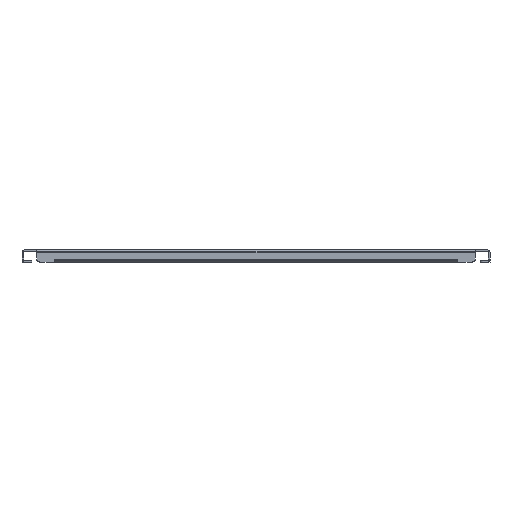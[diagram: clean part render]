
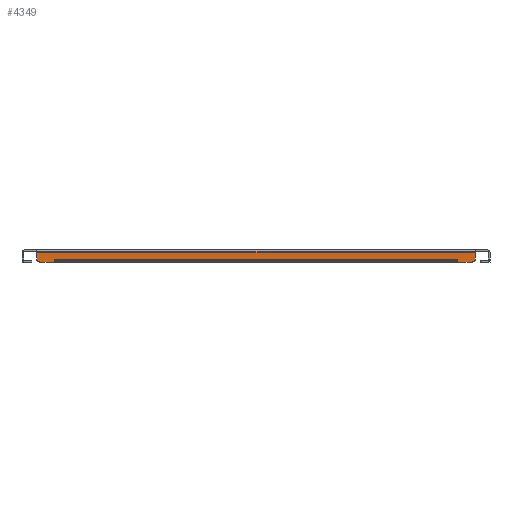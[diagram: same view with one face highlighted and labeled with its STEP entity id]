
A CAD part, front view. The second image highlights one B-rep face of the part: STEP entity #4349.
In plain terms, the highlighted planar face has unit normal (0, -1, 0).
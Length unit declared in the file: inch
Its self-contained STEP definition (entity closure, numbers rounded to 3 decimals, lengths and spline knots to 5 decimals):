
#141=PLANE('',#4746);
#317=FACE_OUTER_BOUND('',#593,.T.);
#593=EDGE_LOOP('',(#3601,#3602,#3603,#3604,#3605,#3606,#3607,#3608,#3609,
#3610,#3611,#3612,#3613,#3614));
#932=LINE('',#6900,#1378);
#952=LINE('',#6968,#1398);
#970=LINE('',#7029,#1416);
#973=LINE('',#7034,#1419);
#974=LINE('',#7038,#1420);
#975=LINE('',#7040,#1421);
#976=LINE('',#7042,#1422);
#977=LINE('',#7044,#1423);
#978=LINE('',#7046,#1424);
#979=LINE('',#7048,#1425);
#980=LINE('',#7050,#1426);
#981=LINE('',#7051,#1427);
#1378=VECTOR('',#5605,0.3937);
#1398=VECTOR('',#5659,0.3937);
#1416=VECTOR('',#5709,0.3937);
#1419=VECTOR('',#5714,0.3937);
#1420=VECTOR('',#5717,0.3937);
#1421=VECTOR('',#5718,0.3937);
#1422=VECTOR('',#5719,0.3937);
#1423=VECTOR('',#5720,0.3937);
#1424=VECTOR('',#5721,0.3937);
#1425=VECTOR('',#5722,0.3937);
#1426=VECTOR('',#5723,0.3937);
#1427=VECTOR('',#5724,0.3937);
#1725=CIRCLE('',#4744,0.125);
#1726=CIRCLE('',#4747,0.125);
#2028=VERTEX_POINT('',#6897);
#2029=VERTEX_POINT('',#6899);
#2059=VERTEX_POINT('',#6965);
#2060=VERTEX_POINT('',#6967);
#2086=VERTEX_POINT('',#7024);
#2087=VERTEX_POINT('',#7028);
#2089=VERTEX_POINT('',#7035);
#2090=VERTEX_POINT('',#7037);
#2091=VERTEX_POINT('',#7039);
#2092=VERTEX_POINT('',#7041);
#2093=VERTEX_POINT('',#7043);
#2094=VERTEX_POINT('',#7045);
#2095=VERTEX_POINT('',#7047);
#2096=VERTEX_POINT('',#7049);
#2566=EDGE_CURVE('',#2029,#2028,#932,.T.);
#2600=EDGE_CURVE('',#2060,#2059,#952,.T.);
#2629=EDGE_CURVE('',#2060,#2086,#1725,.T.);
#2631=EDGE_CURVE('',#2087,#2086,#970,.T.);
#2634=EDGE_CURVE('',#2029,#2059,#973,.T.);
#2635=EDGE_CURVE('',#2089,#2028,#1726,.T.);
#2636=EDGE_CURVE('',#2089,#2090,#974,.T.);
#2637=EDGE_CURVE('',#2090,#2091,#975,.T.);
#2638=EDGE_CURVE('',#2091,#2092,#976,.T.);
#2639=EDGE_CURVE('',#2092,#2093,#977,.T.);
#2640=EDGE_CURVE('',#2093,#2094,#978,.T.);
#2641=EDGE_CURVE('',#2094,#2095,#979,.T.);
#2642=EDGE_CURVE('',#2095,#2096,#980,.T.);
#2643=EDGE_CURVE('',#2096,#2087,#981,.T.);
#3601=ORIENTED_EDGE('',*,*,#2629,.F.);
#3602=ORIENTED_EDGE('',*,*,#2600,.T.);
#3603=ORIENTED_EDGE('',*,*,#2634,.F.);
#3604=ORIENTED_EDGE('',*,*,#2566,.T.);
#3605=ORIENTED_EDGE('',*,*,#2635,.F.);
#3606=ORIENTED_EDGE('',*,*,#2636,.T.);
#3607=ORIENTED_EDGE('',*,*,#2637,.T.);
#3608=ORIENTED_EDGE('',*,*,#2638,.T.);
#3609=ORIENTED_EDGE('',*,*,#2639,.T.);
#3610=ORIENTED_EDGE('',*,*,#2640,.T.);
#3611=ORIENTED_EDGE('',*,*,#2641,.T.);
#3612=ORIENTED_EDGE('',*,*,#2642,.T.);
#3613=ORIENTED_EDGE('',*,*,#2643,.T.);
#3614=ORIENTED_EDGE('',*,*,#2631,.T.);
#4349=ADVANCED_FACE('',(#317),#141,.F.);
#4744=AXIS2_PLACEMENT_3D('',#7025,#5704,#5705);
#4746=AXIS2_PLACEMENT_3D('',#7033,#5712,#5713);
#4747=AXIS2_PLACEMENT_3D('',#7036,#5715,#5716);
#5605=DIRECTION('',(0.,0.,-1.));
#5659=DIRECTION('',(0.,0.,1.));
#5704=DIRECTION('center_axis',(0.,1.,0.));
#5705=DIRECTION('ref_axis',(0.707,0.,-0.707));
#5709=DIRECTION('',(1.,0.,0.));
#5712=DIRECTION('center_axis',(0.,1.,0.));
#5713=DIRECTION('ref_axis',(0.,0.,1.));
#5714=DIRECTION('',(1.,0.,0.));
#5715=DIRECTION('center_axis',(0.,1.,0.));
#5716=DIRECTION('ref_axis',(-0.707,0.,-0.707));
#5717=DIRECTION('',(1.,0.,0.));
#5718=DIRECTION('',(0.,0.,1.));
#5719=DIRECTION('',(1.,0.,0.));
#5720=DIRECTION('',(0.,0.,-1.));
#5721=DIRECTION('',(1.,0.,0.));
#5722=DIRECTION('',(0.,0.,1.));
#5723=DIRECTION('',(1.,0.,0.));
#5724=DIRECTION('',(0.,0.,-1.));
#6897=CARTESIAN_POINT('',(-9.294,-23.5,-0.319));
#6899=CARTESIAN_POINT('',(-9.294,-23.5,-0.031));
#6900=CARTESIAN_POINT('',(-9.294,-23.5,0.068));
#6965=CARTESIAN_POINT('',(9.294,-23.5,-0.031));
#6967=CARTESIAN_POINT('',(9.294,-23.5,-0.319));
#6968=CARTESIAN_POINT('',(9.294,-23.5,-0.444));
#7024=CARTESIAN_POINT('',(9.169,-23.5,-0.444));
#7025=CARTESIAN_POINT('Origin',(9.169,-23.5,-0.319));
#7028=CARTESIAN_POINT('',(8.5442,-23.5,-0.444));
#7029=CARTESIAN_POINT('',(-9.294,-23.5,-0.444));
#7033=CARTESIAN_POINT('Origin',(0.,-23.5,-0.188));
#7034=CARTESIAN_POINT('',(9.294,-23.5,-0.031));
#7035=CARTESIAN_POINT('',(-9.169,-23.5,-0.444));
#7036=CARTESIAN_POINT('Origin',(-9.169,-23.5,-0.319));
#7037=CARTESIAN_POINT('',(-8.5442,-23.5,-0.444));
#7038=CARTESIAN_POINT('',(-9.294,-23.5,-0.444));
#7039=CARTESIAN_POINT('',(-8.5442,-23.5,-0.3448));
#7040=CARTESIAN_POINT('',(-8.5442,-23.5,-0.316));
#7041=CARTESIAN_POINT('',(-8.544,-23.5,-0.3448));
#7042=CARTESIAN_POINT('',(-4.2721,-23.5,-0.3448));
#7043=CARTESIAN_POINT('',(-8.544,-23.5,-0.345));
#7044=CARTESIAN_POINT('',(-8.544,-23.5,-0.2664));
#7045=CARTESIAN_POINT('',(8.544,-23.5,-0.345));
#7046=CARTESIAN_POINT('',(4.272,-23.5,-0.345));
#7047=CARTESIAN_POINT('',(8.544,-23.5,-0.3448));
#7048=CARTESIAN_POINT('',(8.544,-23.5,-0.316));
#7049=CARTESIAN_POINT('',(8.5442,-23.5,-0.3448));
#7050=CARTESIAN_POINT('',(4.272,-23.5,-0.3448));
#7051=CARTESIAN_POINT('',(8.5442,-23.5,-0.2664));
